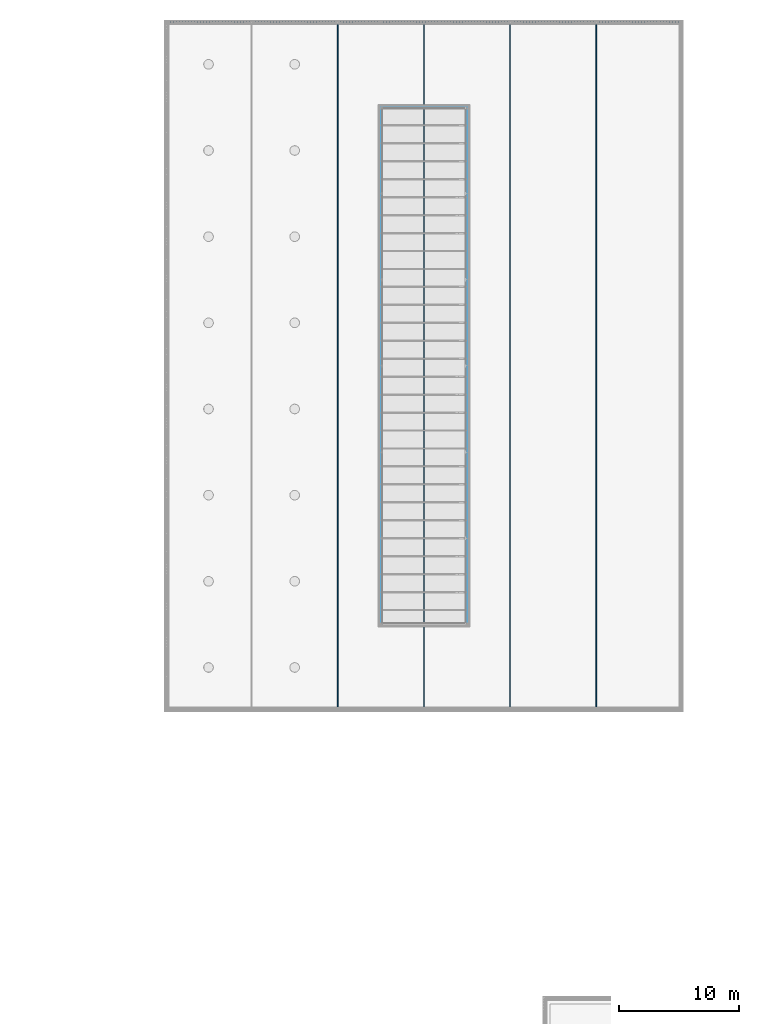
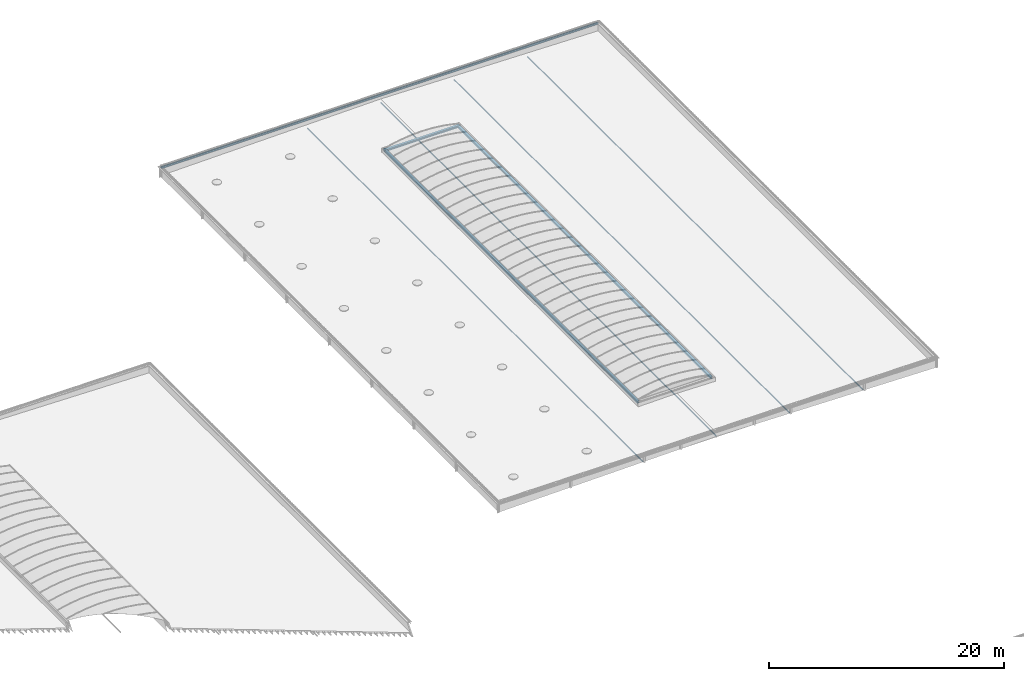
# One storey, part 2 of 81: 8 beams.
"""IFC2X3 building model written with IfcOpenShell, lengths in millimetres."""

from ifc_helpers import new_model, entity, si_unit, converted_unit, derived_unit, money_unit, direction, frame, origin_with_axes, place, context, subcontext, project, spatial, faceted_brep, source, transform, mapped, material, type_object, type_shapes, element, save


model = new_model("IFC2X3")

# Units and contexts
model_context = context("Model", 3, precision=0.01, world=origin_with_axes(), true_north=direction((0.0, 1.0)))
body_context = subcontext(model_context, "Body", "Model", "MODEL_VIEW")
ifc_project = project(units=[si_unit("LENGTHUNIT", "METRE", prefix="MILLI"), si_unit("AREAUNIT", "SQUARE_METRE"), si_unit("VOLUMEUNIT", "CUBIC_METRE"), converted_unit("PLANEANGLEUNIT", "DEGREE", entity("IfcPlaneAngleMeasure", 0.0174532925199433), si_unit("PLANEANGLEUNIT", "RADIAN"), dimensions=[0, 0, 0, 0, 0, 0, 0]), money_unit("EUR"), converted_unit("TIMEUNIT", "Year", entity("IfcTimeMeasure", 31557600.0), si_unit("TIMEUNIT", "SECOND"), dimensions=[0, 0, 1, 0, 0, 0, 0]), si_unit("MASSUNIT", "GRAM", prefix="KILO"), si_unit("THERMODYNAMICTEMPERATUREUNIT", "DEGREE_CELSIUS"), si_unit("LUMINOUSINTENSITYUNIT", "LUMEN"), si_unit("ENERGYUNIT", "JOULE", prefix="MEGA"), derived_unit("THERMALCONDUCTANCEUNIT", [(si_unit("POWERUNIT", "WATT"), 1), (si_unit("LENGTHUNIT", "METRE"), -1), (si_unit("THERMODYNAMICTEMPERATUREUNIT", "KELVIN"), -1)]), derived_unit("SPECIFICHEATCAPACITYUNIT", [(si_unit("ENERGYUNIT", "JOULE"), 1), (si_unit("MASSUNIT", "GRAM", prefix="KILO"), -1), (si_unit("THERMODYNAMICTEMPERATUREUNIT", "KELVIN"), -1)]), derived_unit("MASSDENSITYUNIT", [(si_unit("MASSUNIT", "GRAM", prefix="KILO"), 1), (si_unit("VOLUMEUNIT", "CUBIC_METRE"), -1)])], contexts=[model_context])

# Site, building, storey
site_placement = place(None, origin_with_axes())
site = spatial("IfcSite", under=ifc_project, at=site_placement, Name="Site", CompositionType="ELEMENT")
building_placement = place(site_placement, origin_with_axes())
building = spatial("IfcBuilding", under=site, at=building_placement, Name="Naam gebouw", CompositionType="ELEMENT")
storey_placement = place(building_placement, frame((0.0, 0.0, 15320.0), z_axis=(0.0, 0.0, 1.0), x_axis=(1.0, 0.0, 0.0)))
storey = spatial("IfcBuildingStorey", under=building, at=storey_placement, Name="01 dak", CompositionType="ELEMENT", Elevation=15320.0)

# Beams
ifc_material = material(Name="Metaal - Staal AFW")
beam_type_1 = type_object("IfcBeamType", Name="Buis vk koudgev balk 27", PredefinedType="BEAM")
shared_shape_1 = source(origin_with_axes(), body_context, "Body", "Brep", [
    faceted_brep([(0.0, -37.0, 0.0), (-57019.99999999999, -37.00000000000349, 0.0), (-57019.99999999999, 36.99999999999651, 0.0), (0.0, 37.0, 0.0), (0.0, -42.65685424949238, 2.343145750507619), (-57019.99999999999, -42.65685424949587, 2.34314575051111), (-57019.99999999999, -45.00000000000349, 8.00000000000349), (-57019.99999999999, -45.0000000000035, 82.00000000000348), (-57019.99999999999, -42.65685424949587, 87.65685424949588), (-57019.99999999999, -37.00000000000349, 90.0000000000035), (-57019.99999999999, 36.9999999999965, 90.0000000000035), (-57019.99999999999, 42.65685424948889, 87.65685424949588), (-57019.99999999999, 44.99999999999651, 82.00000000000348), (-57019.99999999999, 44.99999999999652, 8.000000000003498), (-57019.99999999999, 42.65685424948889, 2.34314575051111), (-57019.99999999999, -37.00000000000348, 4.000000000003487), (-57019.99999999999, 36.99999999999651, 4.000000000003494), (-57019.99999999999, 39.8284271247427, 5.171572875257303), (-57019.99999999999, 40.99999999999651, 8.000000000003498), (-57019.99999999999, 40.9999999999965, 82.00000000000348), (-57019.99999999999, 39.8284271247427, 84.82842712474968), (-57019.99999999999, 36.9999999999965, 86.0000000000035), (-57019.99999999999, -37.00000000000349, 86.0000000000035), (-57019.99999999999, -39.82842712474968, 84.82842712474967), (-57019.99999999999, -41.00000000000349, 82.00000000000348), (-57019.99999999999, -41.00000000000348, 8.00000000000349), (-57019.99999999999, -39.82842712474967, 5.171572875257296), (0.0, 42.65685424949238, 2.343145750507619), (0.0, 45.00000000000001, 8.000000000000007), (0.0, 45.0, 81.99999999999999), (0.0, 42.65685424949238, 87.65685424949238), (0.0, 36.99999999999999, 90.0), (0.0, -37.0, 90.0), (0.0, -42.65685424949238, 87.65685424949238), (0.0, -45.00000000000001, 81.99999999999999), (0.0, -45.0, 8.0), (0.0, -36.99999999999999, 3.999999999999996), (0.0, -39.82842712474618, 5.171572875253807), (0.0, -40.99999999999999, 8.0), (0.0, -41.0, 81.99999999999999), (0.0, -39.82842712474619, 84.82842712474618), (0.0, -37.0, 86.0), (0.0, 36.99999999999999, 86.0), (0.0, 39.82842712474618, 84.8284271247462), (0.0, 40.99999999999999, 81.99999999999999), (0.0, 41.0, 8.000000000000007), (0.0, 39.82842712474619, 5.171572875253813), (0.0, 37.0, 4.000000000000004)], [[[0, 1, 2, 3]], [[4, 5, 1, 0]], [[1, 5, 6, 7, 8, 9, 10, 11, 12, 13, 14, 2], [15, 16, 17, 18, 19, 20, 21, 22, 23, 24, 25, 26]], [[3, 2, 14, 27]], [[0, 3, 27, 28, 29, 30, 31, 32, 33, 34, 35, 4], [36, 37, 38, 39, 40, 41, 42, 43, 44, 45, 46, 47]], [[35, 6, 5, 4]], [[34, 7, 6, 35]], [[33, 8, 7, 34]], [[32, 9, 8, 33]], [[31, 10, 9, 32]], [[30, 11, 10, 31]], [[29, 12, 11, 30]], [[28, 13, 12, 29]], [[27, 14, 13, 28]], [[47, 16, 15, 36]], [[46, 17, 16, 47]], [[45, 18, 17, 46]], [[44, 19, 18, 45]], [[43, 20, 19, 44]], [[42, 21, 20, 43]], [[41, 22, 21, 42]], [[40, 23, 22, 41]], [[39, 24, 23, 40]], [[38, 25, 24, 39]], [[37, 26, 25, 38]], [[36, 15, 26, 37]]]),
])
beam_1_placement = place(storey_placement, frame((119700.0, 62300.00000000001, -372.9637134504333), z_axis=(0.0, 0.0, 1.0), x_axis=(0.0, -1.0, 0.0)))
element("IfcBeam", 1, at=beam_1_placement, inside=storey, type_object=beam_type_1, material=ifc_material, Name="K90x4", ObjectType="BEAM", context=body_context, shape_type="MappedRepresentation", body=[
    mapped(shared_shape_1, transform((0.0, 0.0, 0.0))),
])
shared_shape_2 = source(origin_with_axes(), body_context, "Body", "Brep", [
    faceted_brep([(0.0, -37.0, 0.0), (-57019.99999999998, -37.00000000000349, 0.0), (-57019.99999999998, 36.99999999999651, 0.0), (0.0, 37.0, 0.0), (0.0, -42.65685424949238, 2.343145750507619), (-57019.99999999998, -42.65685424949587, 2.34314575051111), (-57019.99999999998, -45.00000000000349, 8.00000000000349), (-57019.99999999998, -45.0000000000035, 82.00000000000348), (-57019.99999999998, -42.65685424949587, 87.65685424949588), (-57019.99999999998, -37.00000000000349, 90.0000000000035), (-57019.99999999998, 36.9999999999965, 90.0000000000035), (-57019.99999999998, 42.65685424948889, 87.65685424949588), (-57019.99999999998, 44.99999999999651, 82.00000000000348), (-57019.99999999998, 44.99999999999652, 8.000000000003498), (-57019.99999999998, 42.65685424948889, 2.34314575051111), (-57019.99999999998, -37.00000000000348, 4.000000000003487), (-57019.99999999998, 36.99999999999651, 4.000000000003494), (-57019.99999999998, 39.8284271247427, 5.171572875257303), (-57019.99999999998, 40.99999999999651, 8.000000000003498), (-57019.99999999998, 40.9999999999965, 82.00000000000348), (-57019.99999999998, 39.8284271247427, 84.82842712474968), (-57019.99999999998, 36.9999999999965, 86.0000000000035), (-57019.99999999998, -37.00000000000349, 86.0000000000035), (-57019.99999999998, -39.82842712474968, 84.82842712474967), (-57019.99999999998, -41.00000000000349, 82.00000000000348), (-57019.99999999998, -41.00000000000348, 8.00000000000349), (-57019.99999999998, -39.82842712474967, 5.171572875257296), (0.0, 42.65685424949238, 2.343145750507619), (0.0, 45.00000000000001, 8.000000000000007), (0.0, 45.0, 81.99999999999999), (0.0, 42.65685424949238, 87.65685424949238), (0.0, 36.99999999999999, 90.0), (0.0, -37.0, 90.0), (0.0, -42.65685424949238, 87.65685424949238), (0.0, -45.00000000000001, 81.99999999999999), (0.0, -45.0, 8.0), (0.0, -36.99999999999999, 3.999999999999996), (0.0, -39.82842712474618, 5.171572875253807), (0.0, -40.99999999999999, 8.0), (0.0, -41.0, 81.99999999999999), (0.0, -39.82842712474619, 84.82842712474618), (0.0, -37.0, 86.0), (0.0, 36.99999999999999, 86.0), (0.0, 39.82842712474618, 84.8284271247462), (0.0, 40.99999999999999, 81.99999999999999), (0.0, 41.0, 8.000000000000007), (0.0, 39.82842712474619, 5.171572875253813), (0.0, 37.0, 4.000000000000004)], [[[0, 1, 2, 3]], [[4, 5, 1, 0]], [[1, 5, 6, 7, 8, 9, 10, 11, 12, 13, 14, 2], [15, 16, 17, 18, 19, 20, 21, 22, 23, 24, 25, 26]], [[3, 2, 14, 27]], [[0, 3, 27, 28, 29, 30, 31, 32, 33, 34, 35, 4], [36, 37, 38, 39, 40, 41, 42, 43, 44, 45, 46, 47]], [[35, 6, 5, 4]], [[34, 7, 6, 35]], [[33, 8, 7, 34]], [[32, 9, 8, 33]], [[31, 10, 9, 32]], [[30, 11, 10, 31]], [[29, 12, 11, 30]], [[28, 13, 12, 29]], [[27, 14, 13, 28]], [[47, 16, 15, 36]], [[46, 17, 16, 47]], [[45, 18, 17, 46]], [[44, 19, 18, 45]], [[43, 20, 19, 44]], [[42, 21, 20, 43]], [[41, 22, 21, 42]], [[40, 23, 22, 41]], [[39, 24, 23, 40]], [[38, 25, 24, 39]], [[37, 26, 25, 38]], [[36, 15, 26, 37]]]),
])
type_shapes(beam_type_1, [shared_shape_1, shared_shape_2])
for number, where, z_axis, x_axis, name in (
    (2, (98099.99999999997, 62300.00000000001, -245.000000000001), (0.0, 0.0, 1.0), (0.0, -1.0, 0.0), "K90x4"),
    (3, (112500.0, 62300.00000000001, -245.000000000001), (0.0, 0.0, 1.0), (0.0, -1.0, 0.0), "K90x4"),
    (4, (105300.0, 62300.00000000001, -110.0000000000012), (0.0, 0.0, 1.0), (0.0, -1.0, 0.0), "K90x4"),
):
    element("IfcBeam", number, at=place(storey_placement, frame(where, z_axis=z_axis, x_axis=x_axis)), inside=storey, type_object=beam_type_1, material=ifc_material, Name=name, ObjectType="BEAM", context=body_context, shape_type="MappedRepresentation", body=[
        mapped(shared_shape_2, transform((0.0, 0.0, 0.0))),
    ])
beam_type_2 = type_object("IfcBeamType", Name="HEA balk 27", PredefinedType="BEAM")
shared_shape_3 = source(origin_with_axes(), body_context, "Body", "Brep", [
    faceted_brep([(0.0, -110.0, 0.0), (0.0, 110.0, 0.0), (42980.00000000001, 109.9999999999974, 0.0), (42980.00000000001, -110.0000000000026, 0.0), (0.0, -110.0, 11.0), (0.0, -21.5, 11.0), (0.0, -12.5, 13.4115427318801), (0.0, -5.911542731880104, 20.0), (0.0, -3.5, 29.0), (0.0, -3.5, 181.0), (0.0, -5.911542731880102, 190.0), (0.0, -12.5, 196.5884572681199), (0.0, -21.5, 199.0), (0.0, -110.0, 199.0), (0.0, -110.0, 210.0), (0.0, 110.0, 210.0), (0.0, 110.0, 199.0), (0.0, 21.5, 199.0), (0.0, 12.5, 196.5884572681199), (0.0, 5.911542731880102, 190.0), (0.0, 3.5, 181.0), (0.0, 3.5, 29.0), (0.0, 5.911542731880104, 20.0), (0.0, 12.5, 13.4115427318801), (0.0, 21.5, 11.0), (0.0, 110.0, 11.0), (42980.00000000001, 109.9999999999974, 11.00000000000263), (42980.00000000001, 21.49999999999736, 11.00000000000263), (42980.00000000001, 12.49999999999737, 13.41154273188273), (42980.00000000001, 5.911542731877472, 20.00000000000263), (42980.00000000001, 3.499999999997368, 29.00000000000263), (42980.00000000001, 3.499999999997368, 181.0000000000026), (42980.00000000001, 5.91154273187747, 190.0000000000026), (42980.00000000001, 12.49999999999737, 196.5884572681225), (42980.00000000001, 21.49999999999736, 199.0000000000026), (42980.00000000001, 109.9999999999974, 199.0000000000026), (42980.00000000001, 109.9999999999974, 210.0000000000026), (42980.00000000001, -110.0000000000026, 210.0000000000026), (42980.00000000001, -110.0000000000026, 199.0000000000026), (42980.00000000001, -21.50000000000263, 199.0000000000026), (42980.00000000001, -12.50000000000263, 196.5884572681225), (42980.00000000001, -5.911542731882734, 190.0000000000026), (42980.00000000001, -3.500000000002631, 181.0000000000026), (42980.00000000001, -3.500000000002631, 29.00000000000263), (42980.00000000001, -5.911542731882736, 20.00000000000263), (42980.00000000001, -12.50000000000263, 13.41154273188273), (42980.00000000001, -21.50000000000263, 11.00000000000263), (42980.00000000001, -110.0000000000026, 11.00000000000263)], [[[0, 1, 2, 3]], [[0, 4, 5, 6, 7, 8, 9, 10, 11, 12, 13, 14, 15, 16, 17, 18, 19, 20, 21, 22, 23, 24, 25, 1]], [[1, 25, 26, 2]], [[3, 2, 26, 27, 28, 29, 30, 31, 32, 33, 34, 35, 36, 37, 38, 39, 40, 41, 42, 43, 44, 45, 46, 47]], [[4, 0, 3, 47]], [[5, 4, 47, 46]], [[6, 5, 46, 45]], [[7, 6, 45, 44]], [[8, 7, 44, 43]], [[9, 8, 43, 42]], [[10, 9, 42, 41]], [[11, 10, 41, 40]], [[12, 11, 40, 39]], [[13, 12, 39, 38]], [[14, 13, 38, 37]], [[15, 14, 37, 36]], [[16, 15, 36, 35]], [[17, 16, 35, 34]], [[18, 17, 34, 33]], [[19, 18, 33, 32]], [[20, 19, 32, 31]], [[21, 20, 31, 30]], [[22, 21, 30, 29]], [[23, 22, 29, 28]], [[24, 23, 28, 27]], [[25, 24, 27, 26]]]),
])
for number, where, z_axis, x_axis, name in (
    (5, (101700.0, 69310.0, 349.9999999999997), (0.0, 0.0, 1.0), (0.0, 1.0, 0.0), "HEA220"),
    (6, (108900.0, 69310.0, 349.9999999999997), (0.0, 0.0, 1.0), (0.0, 1.0, 0.0), "HEA220"),
):
    element("IfcBeam", number, at=place(storey_placement, frame(where, z_axis=z_axis, x_axis=x_axis)), inside=storey, type_object=beam_type_2, material=ifc_material, Name=name, ObjectType="BEAM", context=body_context, shape_type="MappedRepresentation", body=[
        mapped(shared_shape_3, transform((0.0, 0.0, 0.0))),
    ])
shared_shape_4 = source(origin_with_axes(), body_context, "Body", "Brep", [
    faceted_brep([(0.0, -110.0, 0.0), (0.0, 110.0, 0.0), (7420.000000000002, 109.9999999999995, 0.0), (7420.000000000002, -110.0000000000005, 0.0), (0.0, -110.0, 11.0), (0.0, -21.5, 11.0), (0.0, -12.5, 13.4115427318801), (0.0, -5.911542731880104, 20.0), (0.0, -3.5, 29.0), (0.0, -3.5, 181.0), (0.0, -5.911542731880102, 190.0), (0.0, -12.5, 196.5884572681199), (0.0, -21.5, 199.0), (0.0, -110.0, 199.0), (0.0, -110.0, 210.0), (0.0, 110.0, 210.0), (0.0, 110.0, 199.0), (0.0, 21.5, 199.0), (0.0, 12.5, 196.5884572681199), (0.0, 5.911542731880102, 190.0), (0.0, 3.5, 181.0), (0.0, 3.5, 29.0), (0.0, 5.911542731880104, 20.0), (0.0, 12.5, 13.4115427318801), (0.0, 21.5, 11.0), (0.0, 110.0, 11.0), (7420.000000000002, 109.9999999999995, 11.00000000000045), (7420.000000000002, 21.49999999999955, 11.00000000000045), (7420.000000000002, 12.49999999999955, 13.41154273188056), (7420.000000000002, 5.911542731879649, 20.00000000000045), (7420.000000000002, 3.499999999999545, 29.00000000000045), (7420.000000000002, 3.499999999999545, 181.0000000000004), (7420.000000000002, 5.911542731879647, 190.0000000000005), (7420.000000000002, 12.49999999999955, 196.5884572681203), (7420.000000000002, 21.49999999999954, 199.0000000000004), (7420.000000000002, 109.9999999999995, 199.0000000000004), (7420.000000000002, 109.9999999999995, 210.0000000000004), (7420.000000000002, -110.0000000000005, 210.0000000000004), (7420.000000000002, -110.0000000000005, 199.0000000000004), (7420.000000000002, -21.50000000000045, 199.0000000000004), (7420.000000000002, -12.50000000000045, 196.5884572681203), (7420.000000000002, -5.911542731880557, 190.0000000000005), (7420.000000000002, -3.500000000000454, 181.0000000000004), (7420.000000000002, -3.500000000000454, 29.00000000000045), (7420.000000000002, -5.911542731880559, 20.00000000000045), (7420.000000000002, -12.50000000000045, 13.41154273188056), (7420.000000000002, -21.50000000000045, 11.00000000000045), (7420.000000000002, -110.0000000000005, 11.00000000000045)], [[[0, 1, 2, 3]], [[0, 4, 5, 6, 7, 8, 9, 10, 11, 12, 13, 14, 15, 16, 17, 18, 19, 20, 21, 22, 23, 24, 25, 1]], [[1, 25, 26, 2]], [[3, 2, 26, 27, 28, 29, 30, 31, 32, 33, 34, 35, 36, 37, 38, 39, 40, 41, 42, 43, 44, 45, 46, 47]], [[4, 0, 3, 47]], [[5, 4, 47, 46]], [[6, 5, 46, 45]], [[7, 6, 45, 44]], [[8, 7, 44, 43]], [[9, 8, 43, 42]], [[10, 9, 42, 41]], [[11, 10, 41, 40]], [[12, 11, 40, 39]], [[13, 12, 39, 38]], [[14, 13, 38, 37]], [[15, 14, 37, 36]], [[16, 15, 36, 35]], [[17, 16, 35, 34]], [[18, 17, 34, 33]], [[19, 18, 33, 32]], [[20, 19, 32, 31]], [[21, 20, 31, 30]], [[22, 21, 30, 29]], [[23, 22, 29, 28]], [[24, 23, 28, 27]], [[25, 24, 27, 26]]]),
])
beam_2_placement = place(storey_placement, frame((109010.0, 112400.0, 349.9999999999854), z_axis=(0.0, 0.0, 1.0), x_axis=(-1.0, 0.0, 0.0)))
element("IfcBeam", 7, at=beam_2_placement, inside=storey, type_object=beam_type_2, material=ifc_material, Name="HEA220", ObjectType="BEAM", context=body_context, shape_type="MappedRepresentation", body=[
    mapped(shared_shape_4, transform((0.0, 0.0, 0.0))),
])
shared_shape_5 = source(origin_with_axes(), body_context, "Body", "Brep", [
    faceted_brep([(0.0, 0.0, -80.0), (-42896.0, 0.0, -79.99999999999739), (-42896.0, 0.0, 80.00000000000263), (0.0, 0.0, 80.0), (0.0, -9.000000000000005, -80.0), (-42896.0, -9.00000000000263, -79.99999999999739), (-42896.0, -9.000000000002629, -17.99999999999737), (-42896.0, -9.288220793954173, -15.07364516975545), (-42896.0, -10.14180701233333, -12.25974851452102), (-42896.0, -11.52795581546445, -9.666446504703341), (-42896.0, -13.39339828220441, -7.39339828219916), (-42896.0, -15.66644650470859, -5.527955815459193), (-42896.0, -18.25974851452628, -4.141807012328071), (-42896.0, -21.0736451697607, -3.288220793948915), (-42896.0, -24.00000000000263, -2.999999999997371), (-42896.0, -128.0000000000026, -2.999999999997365), (-42896.0, -130.9263548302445, -3.288220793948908), (-42896.0, -133.740251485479, -4.141807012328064), (-42896.0, -136.3335534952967, -5.527955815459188), (-42896.0, -138.6066017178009, -7.39339828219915), (-42896.0, -140.4720441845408, -9.666446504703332), (-42896.0, -141.8581929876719, -12.25974851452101), (-42896.0, -142.7117792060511, -15.07364516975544), (-42896.0, -143.0000000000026, -17.99999999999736), (-42896.0, -143.0000000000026, -79.99999999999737), (-42896.0, -152.0000000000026, -79.99999999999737), (-42896.0, -152.0000000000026, 80.00000000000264), (-42896.0, -143.0000000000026, 80.00000000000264), (-42896.0, -143.0000000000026, 18.00000000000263), (-42896.0, -142.7117792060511, 15.07364516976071), (-42896.0, -141.8581929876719, 12.25974851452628), (-42896.0, -140.4720441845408, 9.666446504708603), (-42896.0, -138.6066017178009, 7.39339828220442), (-42896.0, -136.3335534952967, 5.527955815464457), (-42896.0, -133.740251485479, 4.141807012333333), (-42896.0, -130.9263548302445, 3.288220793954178), (-42896.0, -128.0000000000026, 3.000000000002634), (-42896.0, -24.00000000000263, 3.000000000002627), (-42896.0, -21.0736451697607, 3.288220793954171), (-42896.0, -18.25974851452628, 4.141807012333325), (-42896.0, -15.66644650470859, 5.527955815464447), (-42896.0, -13.39339828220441, 7.393398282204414), (-42896.0, -11.52795581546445, 9.666446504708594), (-42896.0, -10.14180701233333, 12.25974851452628), (-42896.0, -9.288220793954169, 15.0736451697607), (-42896.0, -9.000000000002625, 18.00000000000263), (-42896.0, -9.00000000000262, 80.00000000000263), (0.0, -8.999999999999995, 80.0), (0.0, -9.0, 18.0), (0.0, -9.288220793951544, 15.07364516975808), (0.0, -10.1418070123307, 12.25974851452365), (0.0, -11.52795581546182, 9.666446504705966), (0.0, -13.39339828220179, 7.393398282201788), (0.0, -15.66644650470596, 5.527955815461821), (0.0, -18.25974851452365, 4.141807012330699), (0.0, -21.07364516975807, 3.288220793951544), (0.0, -24.0, 3.0), (0.0, -128.0, 3.000000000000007), (0.0, -130.9263548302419, 3.288220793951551), (0.0, -133.7402514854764, 4.141807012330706), (0.0, -136.333553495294, 5.527955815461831), (0.0, -138.6066017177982, 7.393398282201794), (0.0, -140.4720441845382, 9.666446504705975), (0.0, -141.8581929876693, 12.25974851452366), (0.0, -142.7117792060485, 15.07364516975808), (0.0, -143.0, 18.00000000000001), (0.0, -143.0, 80.00000000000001), (0.0, -152.0, 80.00000000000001), (0.0, -152.0, -79.99999999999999), (0.0, -143.0, -79.99999999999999), (0.0, -143.0, -17.99999999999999), (0.0, -142.7117792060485, -15.07364516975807), (0.0, -141.8581929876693, -12.25974851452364), (0.0, -140.4720441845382, -9.666446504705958), (0.0, -138.6066017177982, -7.393398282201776), (0.0, -136.333553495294, -5.527955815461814), (0.0, -133.7402514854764, -4.14180701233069), (0.0, -130.9263548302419, -3.288220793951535), (0.0, -128.0, -2.999999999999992), (0.0, -24.0, -2.999999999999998), (0.0, -21.07364516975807, -3.288220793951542), (0.0, -18.25974851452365, -4.141807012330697), (0.0, -15.66644650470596, -5.527955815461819), (0.0, -13.39339828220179, -7.393398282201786), (0.0, -11.52795581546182, -9.666446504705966), (0.0, -10.1418070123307, -12.25974851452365), (0.0, -9.288220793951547, -15.07364516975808), (0.0, -9.000000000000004, -18.0)], [[[0, 1, 2, 3]], [[4, 5, 1, 0]], [[1, 5, 6, 7, 8, 9, 10, 11, 12, 13, 14, 15, 16, 17, 18, 19, 20, 21, 22, 23, 24, 25, 26, 27, 28, 29, 30, 31, 32, 33, 34, 35, 36, 37, 38, 39, 40, 41, 42, 43, 44, 45, 46, 2]], [[3, 2, 46, 47]], [[0, 3, 47, 48, 49, 50, 51, 52, 53, 54, 55, 56, 57, 58, 59, 60, 61, 62, 63, 64, 65, 66, 67, 68, 69, 70, 71, 72, 73, 74, 75, 76, 77, 78, 79, 80, 81, 82, 83, 84, 85, 86, 87, 4]], [[87, 6, 5, 4]], [[86, 7, 6, 87]], [[85, 8, 7, 86]], [[84, 9, 8, 85]], [[83, 10, 9, 84]], [[82, 11, 10, 83]], [[81, 12, 11, 82]], [[80, 13, 12, 81]], [[79, 14, 13, 80]], [[78, 15, 14, 79]], [[77, 16, 15, 78]], [[76, 17, 16, 77]], [[75, 18, 17, 76]], [[74, 19, 18, 75]], [[73, 20, 19, 74]], [[72, 21, 20, 73]], [[71, 22, 21, 72]], [[70, 23, 22, 71]], [[69, 24, 23, 70]], [[68, 25, 24, 69]], [[67, 26, 25, 68]], [[66, 27, 26, 67]], [[65, 28, 27, 66]], [[64, 29, 28, 65]], [[63, 30, 29, 64]], [[62, 31, 30, 63]], [[61, 32, 31, 62]], [[60, 33, 32, 61]], [[59, 34, 33, 60]], [[58, 35, 34, 59]], [[57, 36, 35, 58]], [[56, 37, 36, 57]], [[55, 38, 37, 56]], [[54, 39, 38, 55]], [[53, 40, 39, 54]], [[52, 41, 40, 53]], [[51, 42, 41, 52]], [[50, 43, 42, 51]], [[49, 44, 43, 50]], [[48, 45, 44, 49]], [[47, 46, 45, 48]]]),
])
type_shapes(beam_type_2, [shared_shape_4, shared_shape_3, shared_shape_5])
beam_3_placement = place(storey_placement, frame((126747.9999999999, 119600.0, 574.96064028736), z_axis=(0.0, 0.0, 1.0), x_axis=(1.0, 0.0, 0.0)))
element("IfcBeam", 8, at=beam_3_placement, inside=storey, type_object=beam_type_2, material=ifc_material, Name="HEA160", ObjectType="BEAM", context=body_context, shape_type="MappedRepresentation", body=[
    mapped(shared_shape_5, transform((0.0, 0.0, 0.0))),
])

save(model, "model.ifc")
